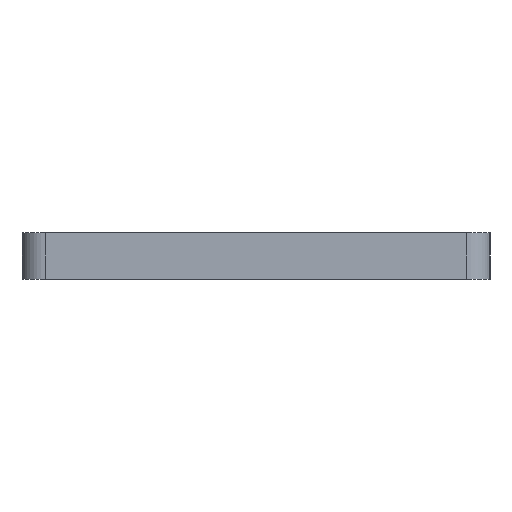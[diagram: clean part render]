
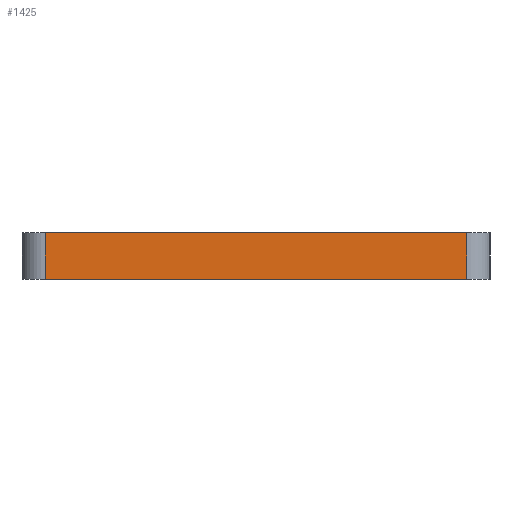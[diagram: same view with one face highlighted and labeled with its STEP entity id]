
A CAD part, left-side view. The second image highlights one B-rep face of the part: STEP entity #1425.
In plain terms, the highlighted planar face has unit normal (-1, 0, 0).
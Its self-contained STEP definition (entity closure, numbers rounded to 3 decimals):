
#44 = PLANE('',#45);
#45 = AXIS2_PLACEMENT_3D('',#46,#47,#48);
#46 = CARTESIAN_POINT('',(0.,0.,0.));
#47 = DIRECTION('',(0.,0.,1.));
#48 = DIRECTION('',(1.,0.,-0.));
#72 = CYLINDRICAL_SURFACE('',#73,2.);
#73 = AXIS2_PLACEMENT_3D('',#74,#75,#76);
#74 = CARTESIAN_POINT('',(-52.,-18.,0.));
#75 = DIRECTION('',(0.,0.,1.));
#76 = DIRECTION('',(0.,-1.,0.));
#100 = PLANE('',#101);
#101 = AXIS2_PLACEMENT_3D('',#102,#103,#104);
#102 = CARTESIAN_POINT('',(0.,0.,4.));
#103 = DIRECTION('',(0.,0.,1.));
#104 = DIRECTION('',(1.,0.,-0.));
#252 = VERTEX_POINT('',#253);
#253 = CARTESIAN_POINT('',(-54.,18.,0.));
#268 = CYLINDRICAL_SURFACE('',#269,2.);
#269 = AXIS2_PLACEMENT_3D('',#270,#271,#272);
#270 = CARTESIAN_POINT('',(-52.,18.,0.));
#271 = DIRECTION('',(0.,0.,1.));
#272 = DIRECTION('',(-0.,1.,0.));
#280 = EDGE_CURVE('',#252,#281,#283,.T.);
#281 = VERTEX_POINT('',#282);
#282 = CARTESIAN_POINT('',(-54.,-18.,0.));
#283 = SURFACE_CURVE('',#284,(#288,#295),.PCURVE_S1.);
#284 = LINE('',#285,#286);
#285 = CARTESIAN_POINT('',(-54.,20.,0.));
#286 = VECTOR('',#287,1.);
#287 = DIRECTION('',(0.,-1.,0.));
#288 = PCURVE('',#44,#289);
#289 = DEFINITIONAL_REPRESENTATION('',(#290),#294);
#290 = LINE('',#291,#292);
#291 = CARTESIAN_POINT('',(-54.,20.));
#292 = VECTOR('',#293,1.);
#293 = DIRECTION('',(0.,-1.));
#294 = ( GEOMETRIC_REPRESENTATION_CONTEXT(2) 
PARAMETRIC_REPRESENTATION_CONTEXT() REPRESENTATION_CONTEXT('2D SPACE',''
  ) );
#295 = PCURVE('',#296,#301);
#296 = PLANE('',#297);
#297 = AXIS2_PLACEMENT_3D('',#298,#299,#300);
#298 = CARTESIAN_POINT('',(-54.,20.,0.));
#299 = DIRECTION('',(1.,0.,-0.));
#300 = DIRECTION('',(0.,-1.,0.));
#301 = DEFINITIONAL_REPRESENTATION('',(#302),#306);
#302 = LINE('',#303,#304);
#303 = CARTESIAN_POINT('',(0.,0.));
#304 = VECTOR('',#305,1.);
#305 = DIRECTION('',(1.,0.));
#306 = ( GEOMETRIC_REPRESENTATION_CONTEXT(2) 
PARAMETRIC_REPRESENTATION_CONTEXT() REPRESENTATION_CONTEXT('2D SPACE',''
  ) );
#809 = EDGE_CURVE('',#281,#810,#812,.T.);
#810 = VERTEX_POINT('',#811);
#811 = CARTESIAN_POINT('',(-54.,-18.,4.));
#812 = SURFACE_CURVE('',#813,(#817,#824),.PCURVE_S1.);
#813 = LINE('',#814,#815);
#814 = CARTESIAN_POINT('',(-54.,-18.,0.));
#815 = VECTOR('',#816,1.);
#816 = DIRECTION('',(0.,0.,1.));
#817 = PCURVE('',#72,#818);
#818 = DEFINITIONAL_REPRESENTATION('',(#819),#823);
#819 = LINE('',#820,#821);
#820 = CARTESIAN_POINT('',(-1.571,0.));
#821 = VECTOR('',#822,1.);
#822 = DIRECTION('',(-0.,1.));
#823 = ( GEOMETRIC_REPRESENTATION_CONTEXT(2) 
PARAMETRIC_REPRESENTATION_CONTEXT() REPRESENTATION_CONTEXT('2D SPACE',''
  ) );
#824 = PCURVE('',#296,#825);
#825 = DEFINITIONAL_REPRESENTATION('',(#826),#830);
#826 = LINE('',#827,#828);
#827 = CARTESIAN_POINT('',(38.,0.));
#828 = VECTOR('',#829,1.);
#829 = DIRECTION('',(0.,-1.));
#830 = ( GEOMETRIC_REPRESENTATION_CONTEXT(2) 
PARAMETRIC_REPRESENTATION_CONTEXT() REPRESENTATION_CONTEXT('2D SPACE',''
  ) );
#985 = VERTEX_POINT('',#986);
#986 = CARTESIAN_POINT('',(-54.,18.,4.));
#1008 = EDGE_CURVE('',#985,#810,#1009,.T.);
#1009 = SURFACE_CURVE('',#1010,(#1014,#1021),.PCURVE_S1.);
#1010 = LINE('',#1011,#1012);
#1011 = CARTESIAN_POINT('',(-54.,20.,4.));
#1012 = VECTOR('',#1013,1.);
#1013 = DIRECTION('',(0.,-1.,0.));
#1014 = PCURVE('',#100,#1015);
#1015 = DEFINITIONAL_REPRESENTATION('',(#1016),#1020);
#1016 = LINE('',#1017,#1018);
#1017 = CARTESIAN_POINT('',(-54.,20.));
#1018 = VECTOR('',#1019,1.);
#1019 = DIRECTION('',(0.,-1.));
#1020 = ( GEOMETRIC_REPRESENTATION_CONTEXT(2) 
PARAMETRIC_REPRESENTATION_CONTEXT() REPRESENTATION_CONTEXT('2D SPACE',''
  ) );
#1021 = PCURVE('',#296,#1022);
#1022 = DEFINITIONAL_REPRESENTATION('',(#1023),#1027);
#1023 = LINE('',#1024,#1025);
#1024 = CARTESIAN_POINT('',(0.,-4.));
#1025 = VECTOR('',#1026,1.);
#1026 = DIRECTION('',(1.,0.));
#1027 = ( GEOMETRIC_REPRESENTATION_CONTEXT(2) 
PARAMETRIC_REPRESENTATION_CONTEXT() REPRESENTATION_CONTEXT('2D SPACE',''
  ) );
#1425 = ADVANCED_FACE('',(#1426),#296,.F.);
#1426 = FACE_BOUND('',#1427,.F.);
#1427 = EDGE_LOOP('',(#1428,#1429,#1450,#1451));
#1428 = ORIENTED_EDGE('',*,*,#280,.F.);
#1429 = ORIENTED_EDGE('',*,*,#1430,.T.);
#1430 = EDGE_CURVE('',#252,#985,#1431,.T.);
#1431 = SURFACE_CURVE('',#1432,(#1436,#1443),.PCURVE_S1.);
#1432 = LINE('',#1433,#1434);
#1433 = CARTESIAN_POINT('',(-54.,18.,0.));
#1434 = VECTOR('',#1435,1.);
#1435 = DIRECTION('',(0.,0.,1.));
#1436 = PCURVE('',#296,#1437);
#1437 = DEFINITIONAL_REPRESENTATION('',(#1438),#1442);
#1438 = LINE('',#1439,#1440);
#1439 = CARTESIAN_POINT('',(2.,0.));
#1440 = VECTOR('',#1441,1.);
#1441 = DIRECTION('',(0.,-1.));
#1442 = ( GEOMETRIC_REPRESENTATION_CONTEXT(2) 
PARAMETRIC_REPRESENTATION_CONTEXT() REPRESENTATION_CONTEXT('2D SPACE',''
  ) );
#1443 = PCURVE('',#268,#1444);
#1444 = DEFINITIONAL_REPRESENTATION('',(#1445),#1449);
#1445 = LINE('',#1446,#1447);
#1446 = CARTESIAN_POINT('',(1.571,0.));
#1447 = VECTOR('',#1448,1.);
#1448 = DIRECTION('',(0.,1.));
#1449 = ( GEOMETRIC_REPRESENTATION_CONTEXT(2) 
PARAMETRIC_REPRESENTATION_CONTEXT() REPRESENTATION_CONTEXT('2D SPACE',''
  ) );
#1450 = ORIENTED_EDGE('',*,*,#1008,.T.);
#1451 = ORIENTED_EDGE('',*,*,#809,.F.);
